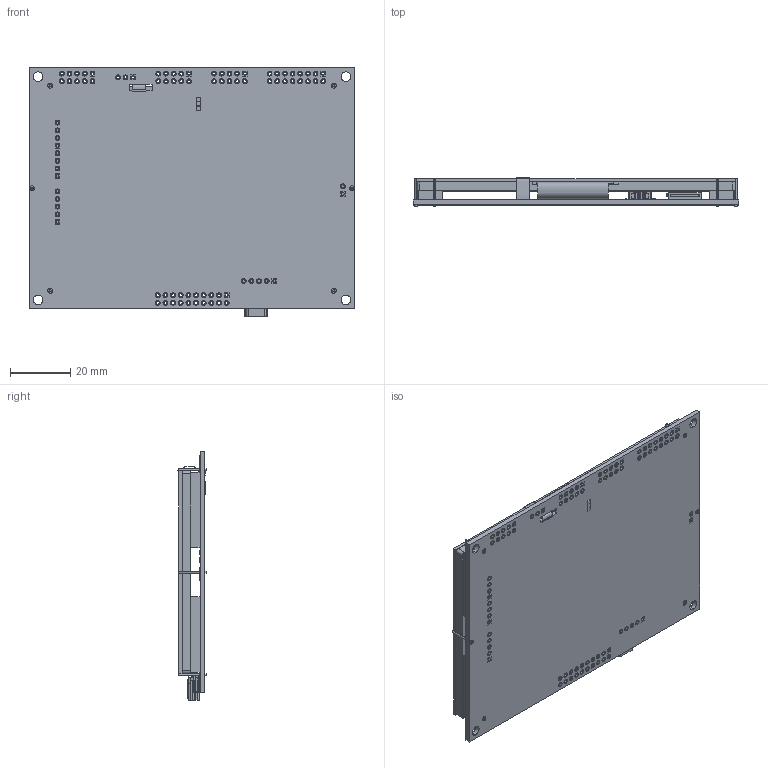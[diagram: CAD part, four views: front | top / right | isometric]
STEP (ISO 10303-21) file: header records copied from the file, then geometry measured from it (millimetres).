
FILE_DESCRIPTION (( 'STEP AP214' ), '1' );
FILE_NAME ('TU480x272C-K61XA1RU.STEP', '2015-02-18T08:38:12', ( '' ), ( '' ), 'SwSTEP 2.0', 'SolidWorks 2015', '' );
FILE_SCHEMA (( 'AUTOMOTIVE_DESIGN' ));
Length unit declared in the file: millimetre
Products named in the file (7): Micro SD; TU480x272C-K612A1; TU480x272C-K61XA1RU; MOLEX - 54819-0572 - Mini USB
Assembly tree (3 placements, depth 2):
  Micro SD
  TU480x272C-K612A1
  TU480x272C-K61XA1RU
    TU480x272C-K612A1
    Micro SD
    MOLEX - 54819-0572 - Mini USB
  MOLEX - 54819-0572 - Mini USB
Bounding box: 108 x 9.29 x 82.5 mm (x, y, z)
Volume: 42229.7 mm3; surface area: 50989.4 mm2
Topology: 6 solids, 7 shells, 1336 faces, 3358 edges, 2216 vertices
Faces by surface type: plane 694, cylinder 613, bspline 29
Entity records: 51571 total; most frequent: CARTESIAN_POINT 8346, DIRECTION 7141, ORIENTED_EDGE 6651, EDGE_CURVE 3358, AXIS2_PLACEMENT_3D 2546, VERTEX_POINT 2216, VECTOR 2049, LINE 2049
